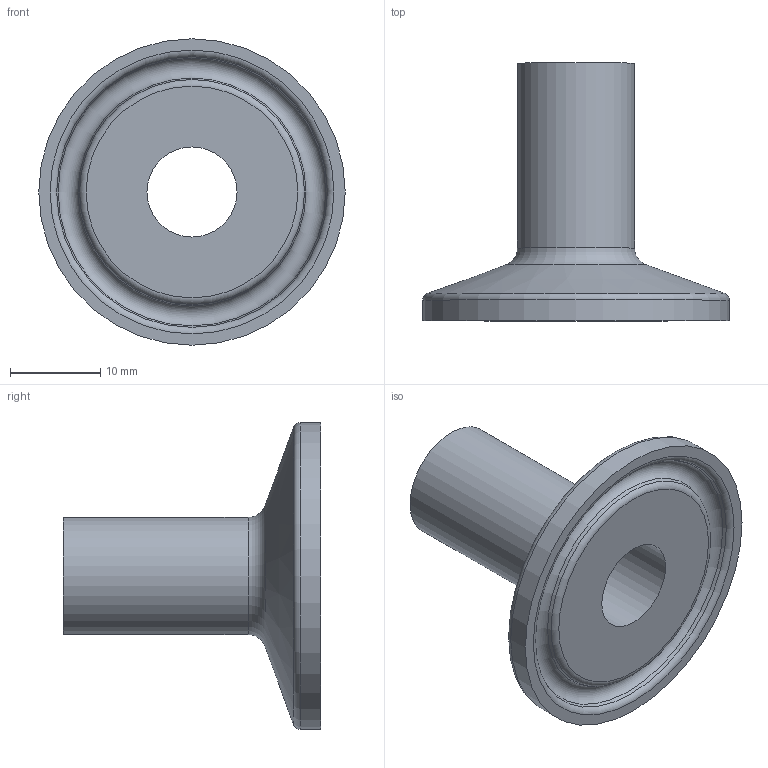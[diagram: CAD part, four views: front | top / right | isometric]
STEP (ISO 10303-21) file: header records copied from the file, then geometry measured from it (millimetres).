
FILE_DESCRIPTION(('Ferrule_13x1,5_L28,6_FL34_V13'),'2;1');
FILE_NAME('Ferrule_13x1,5_L28,6_FL34_V13.stp','2013-11-03T13:42:04',('DOCKWEILER AG'),('DOCKWEILER AG'),'Autodesk Inventor 2012','Autodesk Inventor 2012','');
FILE_SCHEMA(('CONFIG_CONTROL_DESIGN'));
Length unit declared in the file: millimetre
Products named in the file (1): N0003_003_001
Bounding box: 34 x 28.6 x 34 mm (x, y, z)
Volume: 4726.2 mm3; surface area: 3907.8 mm2
Topology: 1 solids, 1 shells, 14 faces, 25 edges, 14 vertices
Faces by surface type: torus 5, plane 3, cylinder 3, cone 3
Full cylindrical faces by diameter (mm): 10 x1, 13 x1, 34 x1
Entity records: 314 total; most frequent: DIRECTION 58, CARTESIAN_POINT 43, AXIS2_PLACEMENT_3D 29, ORIENTED_EDGE 28, EDGE_LOOP 28, VERTEX_POINT 14, CIRCLE 14, EDGE_CURVE 14
